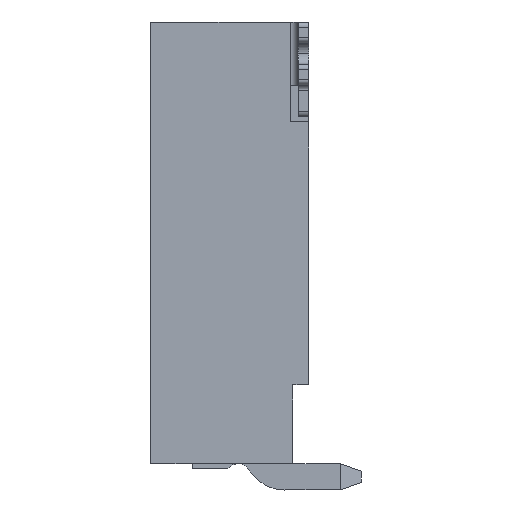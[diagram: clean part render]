
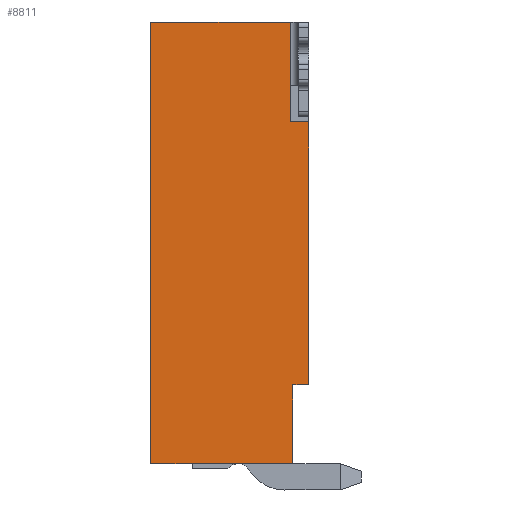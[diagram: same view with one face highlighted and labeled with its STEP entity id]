
A CAD part, left-side view. The second image highlights one B-rep face of the part: STEP entity #8811.
In plain terms, the highlighted planar face has unit normal (-1, 0, 0).
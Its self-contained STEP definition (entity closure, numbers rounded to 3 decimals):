
#2=DIRECTION('',(0.,0.,1.));
#3=VECTOR('',#2,1.9);
#4=CARTESIAN_POINT('',(-7.25,0.35,6.5));
#5=LINE('',#4,#3);
#6=DIRECTION('',(0.,0.,1.));
#7=VECTOR('',#6,5.);
#8=CARTESIAN_POINT('',(-7.25,0.,1.5));
#9=LINE('',#8,#7);
#10=DIRECTION('',(0.,-1.,0.));
#11=VECTOR('',#10,0.3);
#12=CARTESIAN_POINT('',(-7.25,0.3,1.5));
#13=LINE('',#12,#11);
#14=DIRECTION('',(0.,0.,1.));
#15=VECTOR('',#14,1.5);
#16=CARTESIAN_POINT('',(-7.25,0.3,0.));
#17=LINE('',#16,#15);
#18=DIRECTION('',(0.,-1.,0.));
#19=VECTOR('',#18,2.7);
#20=CARTESIAN_POINT('',(-7.25,3.,0.));
#21=LINE('',#20,#19);
#22=DIRECTION('',(0.,0.,-1.));
#23=VECTOR('',#22,8.4);
#24=CARTESIAN_POINT('',(-7.25,3.,8.4));
#25=LINE('',#24,#23);
#26=DIRECTION('',(0.,1.,0.));
#27=VECTOR('',#26,2.65);
#28=CARTESIAN_POINT('',(-7.25,0.35,8.4));
#29=LINE('',#28,#27);
#5742=DIRECTION('',(0.,-1.,0.));
#5743=VECTOR('',#5742,0.35);
#5744=CARTESIAN_POINT('',(-7.25,0.35,6.5));
#5745=LINE('',#5744,#5743);
#6766=CARTESIAN_POINT('',(-7.25,0.35,6.5));
#6767=CARTESIAN_POINT('',(-7.25,0.,6.5));
#6768=VERTEX_POINT('',#6766);
#6769=VERTEX_POINT('',#6767);
#6770=CARTESIAN_POINT('',(-7.25,0.,1.5));
#6771=VERTEX_POINT('',#6770);
#6772=CARTESIAN_POINT('',(-7.25,0.3,1.5));
#6773=VERTEX_POINT('',#6772);
#6774=CARTESIAN_POINT('',(-7.25,0.3,0.));
#6775=VERTEX_POINT('',#6774);
#6776=CARTESIAN_POINT('',(-7.25,3.,0.));
#6777=VERTEX_POINT('',#6776);
#6778=CARTESIAN_POINT('',(-7.25,3.,8.4));
#6779=VERTEX_POINT('',#6778);
#6780=CARTESIAN_POINT('',(-7.25,0.35,8.4));
#6781=VERTEX_POINT('',#6780);
#8788=CARTESIAN_POINT('',(-7.25,0.,0.));
#8789=DIRECTION('',(1.,0.,0.));
#8790=DIRECTION('',(0.,0.,-1.));
#8791=AXIS2_PLACEMENT_3D('',#8788,#8789,#8790);
#8792=PLANE('',#8791);
#8794=ORIENTED_EDGE('',*,*,#8793,.F.);
#8796=ORIENTED_EDGE('',*,*,#8795,.T.);
#8798=ORIENTED_EDGE('',*,*,#8797,.F.);
#8800=ORIENTED_EDGE('',*,*,#8799,.F.);
#8802=ORIENTED_EDGE('',*,*,#8801,.F.);
#8804=ORIENTED_EDGE('',*,*,#8803,.F.);
#8806=ORIENTED_EDGE('',*,*,#8805,.F.);
#8808=ORIENTED_EDGE('',*,*,#8807,.F.);
#8809=EDGE_LOOP('',(#8794,#8796,#8798,#8800,#8802,#8804,#8806,#8808));
#8810=FACE_OUTER_BOUND('',#8809,.F.);
#8793=EDGE_CURVE('',#6768,#6781,#5,.T.);
#8795=EDGE_CURVE('',#6768,#6769,#5745,.T.);
#8797=EDGE_CURVE('',#6771,#6769,#9,.T.);
#8799=EDGE_CURVE('',#6773,#6771,#13,.T.);
#8801=EDGE_CURVE('',#6775,#6773,#17,.T.);
#8803=EDGE_CURVE('',#6777,#6775,#21,.T.);
#8805=EDGE_CURVE('',#6779,#6777,#25,.T.);
#8807=EDGE_CURVE('',#6781,#6779,#29,.T.);
#8811=ADVANCED_FACE('',(#8810),#8792,.F.);
